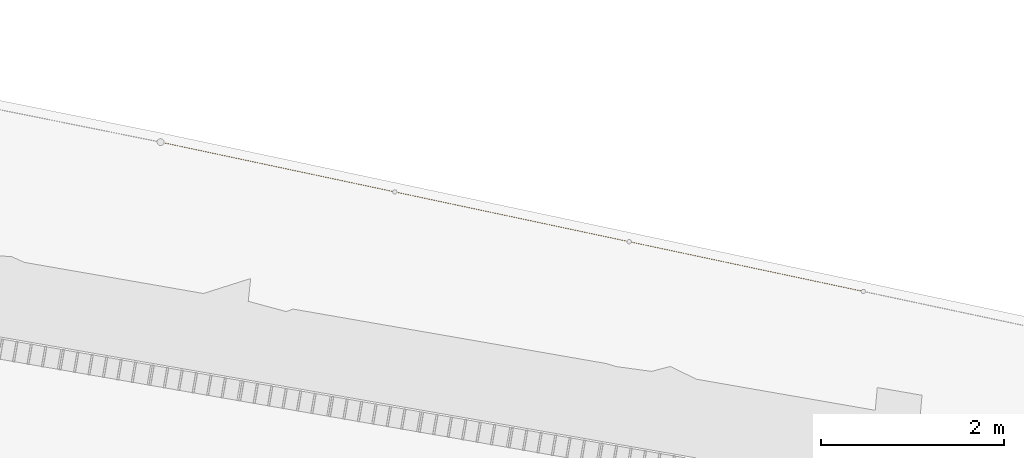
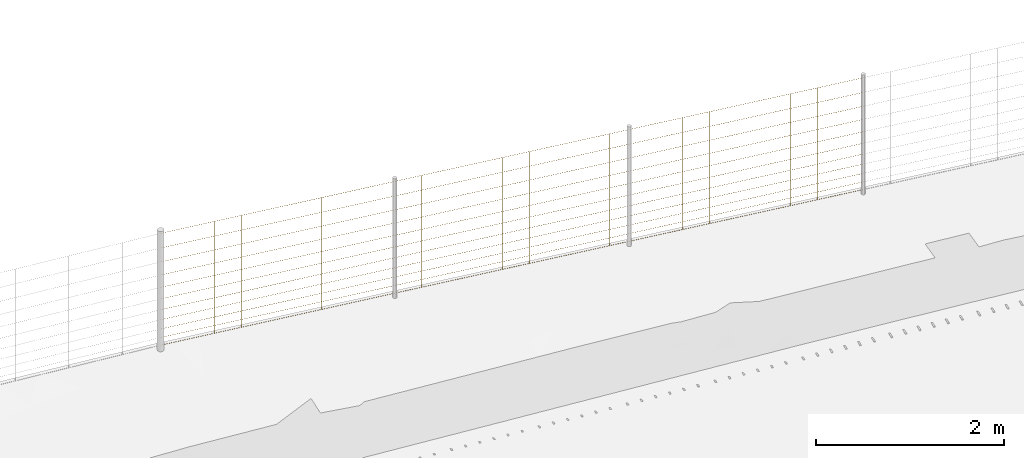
# Not in any storey, part 51 of 72: 3 railings.
"""IFC4 model written with IfcOpenShell, lengths in metres."""

import ifcopenshell
import ifcopenshell.guid

model = None  # the IFC model being written
_history = None  # IfcOwnerHistory: only IFC2X3 demands one
_inside = {}  # id of a spatial element -> (the spatial element, [elements in it])
_under = {}  # id of a project, library or spatial element -> (it, [spatial elements below it])
_declared = {}  # id of a project -> (the project, [libraries it declares])
_typed = {}  # id of a type object -> (the type object, [elements of that type])
_made_of = {}  # id of a material, layer set ... -> (it, [elements and type objects made of it])


def new_model(schema):
    """Start an empty IFC model of exactly this schema.

    Asked for "IFC4X3", IfcOpenShell would pick the latest addendum, in which some entities
    have other attributes; the version numbers below select the first issue.
    IFC2X3 requires an IfcOwnerHistory on every rooted entity: one is made here for all.
    """
    global model, _history
    if schema == "IFC4X3":
        model = ifcopenshell.file(schema_version=(4, 3, 0, 0))
    else:
        model = ifcopenshell.file(schema=schema)
    _inside.clear()
    _under.clear()
    _declared.clear()
    _typed.clear()
    _made_of.clear()
    _history = None
    if model.schema == "IFC2X3":
        org = make("IfcOrganization", Name="unknown")
        user = make(
            "IfcPersonAndOrganization",
            ThePerson=make("IfcPerson", FamilyName="unknown"),
            TheOrganization=org,
        )
        app = make(
            "IfcApplication",
            ApplicationDeveloper=org,
            Version="unknown",
            ApplicationFullName="unknown",
            ApplicationIdentifier="unknown",
        )
        _history = make(
            "IfcOwnerHistory",
            OwningUser=user,
            OwningApplication=app,
            ChangeAction="ADDED",
            CreationDate=0,
        )
    return model


def make(cls, **values):
    """One entity of the class cls with the attributes given. An attribute that is None is left unset."""
    return model.create_entity(
        cls, **{name: value for name, value in values.items() if value is not None}
    )


def rooted(cls, **values):
    """An entity with a GlobalId (a new one), such as an element, a storey or a relation."""
    return make(cls, GlobalId=ifcopenshell.guid.new(), OwnerHistory=_history, **values)


def si_unit(unit_type, name, prefix=None):
    """IfcSIUnit, for example si_unit("LENGTHUNIT", "METRE", prefix="MILLI")."""
    return make("IfcSIUnit", UnitType=unit_type, Prefix=prefix, Name=name)


def assignment(units):
    """IfcUnitAssignment: the units of a project."""
    return None if units is None else make("IfcUnitAssignment", Units=units)


def point(xyz):
    """IfcCartesianPoint."""
    return None if xyz is None else make("IfcCartesianPoint", Coordinates=xyz)


def direction(xyz):
    """IfcDirection."""
    return None if xyz is None else make("IfcDirection", DirectionRatios=xyz)


def frame(location, z_axis=None, x_axis=None):
    """IfcAxis2Placement3D, a coordinate frame: its origin and axes. An axis left out is left unset."""
    return make(
        "IfcAxis2Placement3D",
        Location=point(location),
        Axis=direction(z_axis),
        RefDirection=direction(x_axis),
    )


def origin_with_axes():
    """The frame at (0, 0, 0) with the z axis (0, 0, 1) and the x axis (1, 0, 0) written out."""
    return frame((0.0, 0.0, 0.0), z_axis=(0.0, 0.0, 1.0), x_axis=(1.0, 0.0, 0.0))


def place(relative_to, where):
    """IfcLocalPlacement: puts the frame where relative to a parent placement (None: the world)."""
    return make(
        "IfcLocalPlacement", PlacementRelTo=relative_to, RelativePlacement=where
    )


def context(
    kind, dimensions, precision=None, world=None, true_north=None, identifier=None
):
    """IfcGeometricRepresentationContext, for example the 3D "Model" context."""
    return make(
        "IfcGeometricRepresentationContext",
        ContextIdentifier=identifier,
        ContextType=kind,
        CoordinateSpaceDimension=dimensions,
        Precision=precision,
        WorldCoordinateSystem=world,
        TrueNorth=true_north,
    )


def subcontext(parent, identifier, kind, view, scale=None):
    """IfcGeometricRepresentationSubContext, for example "Body" below "Model"."""
    return make(
        "IfcGeometricRepresentationSubContext",
        ContextIdentifier=identifier,
        ContextType=kind,
        ParentContext=parent,
        TargetScale=scale,
        TargetView=view,
    )


def project(units=None, contexts=None):
    """IfcProject with its units and contexts."""
    return rooted(
        "IfcProject",
        Name="project",
        RepresentationContexts=contexts,
        UnitsInContext=assignment(units),
    )


def spatial(cls, under=None, at=None, **own):
    """A site, building, storey or space (cls), placed at a placement, below another one or the project."""
    s = rooted(cls, ObjectPlacement=at, **own)
    if under is not None:
        _under.setdefault(under.id(), (under, []))[1].append(s)
    return s


def point_list(points):
    """IfcCartesianPointList2D or 3D."""
    cls = (
        "IfcCartesianPointList2D" if len(points[0]) == 2 else "IfcCartesianPointList3D"
    )
    return make(cls, CoordList=points)


def polygons(points, faces, closed=None, point_numbers=None):
    """IfcPolygonalFaceSet: a face is its outer loop, then its inner loops; points numbered from 1."""
    made = []
    for loops in faces:
        if len(loops) == 1:
            made.append(make("IfcIndexedPolygonalFace", CoordIndex=loops[0]))
        else:
            made.append(
                make(
                    "IfcIndexedPolygonalFaceWithVoids",
                    CoordIndex=loops[0],
                    InnerCoordIndices=loops[1:],
                )
            )
    return make(
        "IfcPolygonalFaceSet",
        Coordinates=point_list(points),
        Closed=closed,
        Faces=made,
        PnIndex=point_numbers,
    )


def shape(context_of_items, identifier, shape_type, items):
    """IfcShapeRepresentation: the items that make up one representation, for example the "Body"."""
    return make(
        "IfcShapeRepresentation",
        ContextOfItems=context_of_items,
        RepresentationIdentifier=identifier,
        RepresentationType=shape_type,
        Items=items,
    )


def material(Name=None, Category=None):
    """IfcMaterial."""
    return make("IfcMaterial", Name=Name, Category=Category)


def made_of(thing, what):
    """Note that an element or type object is made of a material, layer set ...; save() writes the relation."""
    if what is not None:
        _made_of.setdefault(what.id(), (what, []))[1].append(thing)
    return thing


def element(
    cls,
    number,
    at=None,
    inside=None,
    cuts=None,
    type_object=None,
    material=None,
    context=None,
    identifier="Body",
    shape_type=None,
    held_by="IfcProductDefinitionShape",
    body=None,
    shapes=None,
    **own,
):
    """One element of the class cls, such as IfcWall. Its Tag is "e" and its number.

    at: its placement. inside: the storey or other place that contains it. cuts: it is an
    opening in that element (IfcRelVoidsElement). A single representation is given by context,
    identifier, shape_type and body (its items); several are given by shapes. held_by: the class
    of the entity that holds the representations. save() writes the other relations.
    """
    e = rooted(cls, Tag="e%d" % number, ObjectPlacement=at, **own)
    if body is not None:
        shapes = [shape(context, identifier, shape_type, body)]
    if shapes is not None:
        e.Representation = make(held_by, Representations=shapes)
    if inside is not None:
        _inside.setdefault(inside.id(), (inside, []))[1].append(e)
    if cuts is not None:
        rooted(
            "IfcRelVoidsElement", RelatingBuildingElement=cuts, RelatedOpeningElement=e
        )
    if type_object is not None:
        _typed.setdefault(type_object.id(), (type_object, []))[1].append(e)
    return made_of(e, material)


def aggregate(whole, parts):
    """IfcRelAggregates: a whole, such as a stair, and the parts it consists of."""
    return rooted("IfcRelAggregates", RelatingObject=whole, RelatedObjects=parts)


def save(model, path):
    """Write the relations noted so far, then the file.

    IfcRelAggregates (storeys below a building ...), IfcRelContainedInSpatialStructure (elements
    in a storey), IfcRelDefinesByType, IfcRelAssociatesMaterial and IfcRelDeclares: one each for
    every whole, place, type object, material and project.
    """
    for whole, parts in _under.values():
        aggregate(whole, parts)
    for where, things in _inside.values():
        rooted(
            "IfcRelContainedInSpatialStructure",
            RelatedElements=things,
            RelatingStructure=where,
        )
    for kind, things in _typed.values():
        rooted("IfcRelDefinesByType", RelatedObjects=things, RelatingType=kind)
    for what, things in _made_of.values():
        rooted("IfcRelAssociatesMaterial", RelatedObjects=things, RelatingMaterial=what)
    for by, libraries in _declared.values():
        rooted("IfcRelDeclares", RelatingContext=by, RelatedDefinitions=libraries)
    model.write(path)


model = new_model("IFC4")

# Units and contexts
model_context = context("Model", 3, precision=1e-05, world=origin_with_axes(), true_north=direction((0.0, 1.0)))
body_context = subcontext(model_context, "Body", "Model", "MODEL_VIEW")
ifc_project = project(units=[si_unit("AREAUNIT", "SQUARE_METRE"), si_unit("VOLUMEUNIT", "CUBIC_METRE"), si_unit("LENGTHUNIT", "METRE")], contexts=[model_context])

# Site
site_placement = place(None, origin_with_axes())
site = spatial("IfcSite", under=ifc_project, at=site_placement, Name="Lares · Rua das Mercês · artigo 4771")

# Railings
ifc_material = material(Name="Aço galvanizado / Stahl verzinkt", Category="steel")
railing_1_placement = place(site_placement, frame((0.0, 0.0, 0.0), z_axis=(0.0, 0.0, 1.0), x_axis=(1.0, -1.03767253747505e-17, 0.0)))
element("IfcRailing", 1, at=railing_1_placement, inside=site, material=ifc_material, Name="Vedação · rede ovelheira 1.078", ObjectType="SHEEP_WIRE_FENCE", PredefinedType="USERDEFINED", context=body_context, shape_type="Tessellation", body=[
    polygons([(73.5210118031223, 9.69020864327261, 16.2570512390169), (73.5213842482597, 9.69166299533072, 16.2555525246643), (73.5216352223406, 9.69314315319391, 16.2570512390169), (73.5212627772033, 9.6916888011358, 16.2585499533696), (76.0805076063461, 9.14645894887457, 16.3654563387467), (76.0808800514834, 9.14791330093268, 16.3639576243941), (76.0811310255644, 9.14939345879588, 16.3654563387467), (76.080758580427, 9.14793910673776, 16.3669550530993), (73.5210118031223, 9.69020864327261, 16.3570512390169), (73.5213842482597, 9.69166299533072, 16.3555525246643), (73.5216352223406, 9.69314315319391, 16.3570512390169), (73.5212627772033, 9.6916888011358, 16.3585499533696), (76.0805076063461, 9.14645894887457, 16.4654563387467), (76.0808800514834, 9.14791330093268, 16.4639576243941), (76.0811310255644, 9.14939345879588, 16.4654563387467), (76.080758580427, 9.14793910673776, 16.4669550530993), (73.5210118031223, 9.69020864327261, 16.4670512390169), (73.5213842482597, 9.69166299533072, 16.4655525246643), (73.5216352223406, 9.69314315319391, 16.4670512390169), (73.5212627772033, 9.6916888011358, 16.4685499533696), (76.0805076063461, 9.14645894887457, 16.5754563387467), (76.0808800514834, 9.14791330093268, 16.5739576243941), (76.0811310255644, 9.14939345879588, 16.5754563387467), (76.080758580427, 9.14793910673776, 16.5769550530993), (73.5210118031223, 9.69020864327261, 16.5870512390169), (73.5213842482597, 9.69166299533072, 16.5855525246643), (73.5216352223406, 9.69314315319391, 16.5870512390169), (73.5212627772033, 9.6916888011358, 16.5885499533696), (76.0805076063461, 9.14645894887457, 16.6954563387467), (76.0808800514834, 9.14791330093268, 16.6939576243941), (76.0811310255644, 9.14939345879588, 16.6954563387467), (76.080758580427, 9.14793910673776, 16.6969550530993), (73.5210118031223, 9.69020864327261, 16.7170512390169), (73.5213842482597, 9.69166299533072, 16.7155525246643), (73.5216352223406, 9.69314315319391, 16.7170512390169), (73.5212627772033, 9.6916888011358, 16.7185499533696), (76.0805076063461, 9.14645894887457, 16.8254563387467), (76.0808800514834, 9.14791330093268, 16.8239576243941), (76.0811310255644, 9.14939345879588, 16.8254563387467), (76.080758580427, 9.14793910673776, 16.8269550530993), (73.5210118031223, 9.69020864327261, 16.8570512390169), (73.5213842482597, 9.69166299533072, 16.8555525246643), (73.5216352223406, 9.69314315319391, 16.8570512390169), (73.5212627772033, 9.6916888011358, 16.8585499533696), (76.0805076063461, 9.14645894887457, 16.9654563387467), (76.0808800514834, 9.14791330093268, 16.9639576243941), (76.0811310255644, 9.14939345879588, 16.9654563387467), (76.080758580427, 9.14793910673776, 16.9669550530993), (73.5210118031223, 9.69020864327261, 17.0070512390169), (73.5213842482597, 9.69166299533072, 17.0055525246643), (73.5216352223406, 9.69314315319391, 17.0070512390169), (73.5212627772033, 9.6916888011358, 17.0085499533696), (76.0805076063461, 9.14645894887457, 17.1154563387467), (76.0808800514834, 9.14791330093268, 17.1139576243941), (76.0811310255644, 9.14939345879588, 17.1154563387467), (76.080758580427, 9.14793910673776, 17.1169550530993), (73.5210118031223, 9.69020864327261, 17.1670512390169), (73.5213842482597, 9.69166299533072, 17.1655525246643), (73.5216352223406, 9.69314315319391, 17.1670512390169), (73.5212627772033, 9.6916888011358, 17.1685499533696), (76.0805076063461, 9.14645894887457, 17.2754563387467), (76.0808800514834, 9.14791330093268, 17.2739576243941), (76.0811310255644, 9.14939345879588, 17.2754563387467), (76.080758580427, 9.14793910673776, 17.2769550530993), (73.5210118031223, 9.69020864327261, 17.3370512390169), (73.5213842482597, 9.69166299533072, 17.3355525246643), (73.5216352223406, 9.69314315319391, 17.3370512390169), (73.5212627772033, 9.6916888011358, 17.3385499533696), (76.0805076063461, 9.14645894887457, 17.4454563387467), (76.0808800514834, 9.14791330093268, 17.4439576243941), (76.0811310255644, 9.14939345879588, 17.4454563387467), (76.080758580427, 9.14793910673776, 17.4469550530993), (73.5210118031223, 9.69020864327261, 17.5170512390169), (73.5213842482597, 9.69166299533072, 17.5155525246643), (73.5216352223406, 9.69314315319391, 17.5170512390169), (73.5212627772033, 9.6916888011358, 17.5185499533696), (76.0805076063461, 9.14645894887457, 17.6254563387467), (76.0808800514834, 9.14791330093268, 17.6239576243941), (76.0811310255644, 9.14939345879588, 17.6254563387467), (76.080758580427, 9.14793910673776, 17.6269550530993), (73.5210118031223, 9.69020864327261, 17.7070512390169), (73.5213842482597, 9.69166299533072, 17.7055525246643), (73.5216352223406, 9.69314315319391, 17.7070512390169), (73.5212627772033, 9.6916888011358, 17.7085499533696), (76.0805076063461, 9.14645894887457, 17.8154563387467), (76.0808800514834, 9.14791330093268, 17.8139576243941), (76.0811310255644, 9.14939345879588, 17.8154563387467), (76.080758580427, 9.14793910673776, 17.8169550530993), (73.814774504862, 9.63083397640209, 16.2694800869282), (73.813274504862, 9.62933397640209, 16.2694800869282), (73.814774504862, 9.62783397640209, 16.2694800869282), (73.816274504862, 9.62933397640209, 16.2694800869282), (73.814774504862, 9.63083397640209, 17.7194800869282), (73.813274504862, 9.62933397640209, 17.7194800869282), (73.814774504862, 9.62783397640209, 17.7194800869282), (73.816274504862, 9.62933397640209, 17.7194800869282), (74.1082254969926, 9.56849205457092, 16.2819089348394), (74.1067254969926, 9.56699205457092, 16.2819089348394), (74.1082254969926, 9.56549205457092, 16.2819089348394), (74.1097254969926, 9.56699205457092, 16.2819089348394), (74.1082254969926, 9.56849205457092, 17.7319089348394), (74.1067254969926, 9.56699205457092, 17.7319089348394), (74.1082254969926, 9.56549205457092, 17.7319089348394), (74.1097254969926, 9.56699205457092, 17.7319089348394), (74.4016764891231, 9.50615013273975, 16.2943377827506), (74.4001764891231, 9.50465013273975, 16.2943377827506), (74.4016764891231, 9.50315013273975, 16.2943377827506), (74.4031764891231, 9.50465013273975, 16.2943377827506), (74.4016764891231, 9.50615013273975, 17.7443377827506), (74.4001764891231, 9.50465013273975, 17.7443377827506), (74.4016764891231, 9.50315013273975, 17.7443377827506), (74.4031764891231, 9.50465013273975, 17.7443377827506), (74.6951274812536, 9.44380821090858, 16.3067666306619), (74.6936274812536, 9.44230821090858, 16.3067666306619), (74.6951274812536, 9.44080821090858, 16.3067666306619), (74.6966274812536, 9.44230821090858, 16.3067666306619), (74.6951274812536, 9.44380821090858, 17.7567666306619), (74.6936274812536, 9.44230821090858, 17.7567666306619), (74.6951274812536, 9.44080821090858, 17.7567666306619), (74.6966274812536, 9.44230821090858, 17.7567666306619), (74.9885784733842, 9.38146628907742, 16.3191954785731), (74.9870784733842, 9.37996628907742, 16.3191954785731), (74.9885784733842, 9.37846628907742, 16.3191954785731), (74.9900784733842, 9.37996628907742, 16.3191954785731), (74.9885784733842, 9.38146628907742, 17.7691954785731), (74.9870784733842, 9.37996628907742, 17.7691954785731), (74.9885784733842, 9.37846628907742, 17.7691954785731), (74.9900784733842, 9.37996628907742, 17.7691954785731), (75.2820294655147, 9.31912436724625, 16.3316243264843), (75.2805294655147, 9.31762436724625, 16.3316243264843), (75.2820294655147, 9.31612436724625, 16.3316243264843), (75.2835294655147, 9.31762436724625, 16.3316243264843), (75.2820294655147, 9.31912436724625, 17.7816243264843), (75.2805294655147, 9.31762436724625, 17.7816243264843), (75.2820294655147, 9.31612436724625, 17.7816243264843), (75.2835294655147, 9.31762436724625, 17.7816243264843), (75.5754804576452, 9.25678244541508, 16.3440531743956), (75.5739804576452, 9.25528244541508, 16.3440531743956), (75.5754804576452, 9.25378244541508, 16.3440531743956), (75.5769804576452, 9.25528244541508, 16.3440531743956), (75.5754804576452, 9.25678244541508, 17.7940531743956), (75.5739804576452, 9.25528244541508, 17.7940531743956), (75.5754804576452, 9.25378244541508, 17.7940531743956), (75.5769804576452, 9.25528244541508, 17.7940531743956), (75.8689314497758, 9.19444052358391, 16.3564820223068), (75.8674314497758, 9.19294052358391, 16.3564820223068), (75.8689314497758, 9.19144052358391, 16.3564820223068), (75.8704314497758, 9.19294052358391, 16.3564820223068), (75.8689314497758, 9.19444052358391, 17.8064820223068), (75.8674314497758, 9.19294052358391, 17.8064820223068), (75.8689314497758, 9.19144052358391, 17.8064820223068), (75.8704314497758, 9.19294052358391, 17.8064820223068)], [[[4, 3, 2, 1]], [[5, 6, 7, 8]], [[1, 2, 6, 5]], [[2, 3, 7, 6]], [[3, 4, 8, 7]], [[4, 1, 5, 8]], [[12, 11, 10, 9]], [[13, 14, 15, 16]], [[9, 10, 14, 13]], [[10, 11, 15, 14]], [[11, 12, 16, 15]], [[12, 9, 13, 16]], [[20, 19, 18, 17]], [[21, 22, 23, 24]], [[17, 18, 22, 21]], [[18, 19, 23, 22]], [[19, 20, 24, 23]], [[20, 17, 21, 24]], [[28, 27, 26, 25]], [[29, 30, 31, 32]], [[25, 26, 30, 29]], [[26, 27, 31, 30]], [[27, 28, 32, 31]], [[28, 25, 29, 32]], [[36, 35, 34, 33]], [[37, 38, 39, 40]], [[33, 34, 38, 37]], [[34, 35, 39, 38]], [[35, 36, 40, 39]], [[36, 33, 37, 40]], [[44, 43, 42, 41]], [[45, 46, 47, 48]], [[41, 42, 46, 45]], [[42, 43, 47, 46]], [[43, 44, 48, 47]], [[44, 41, 45, 48]], [[52, 51, 50, 49]], [[53, 54, 55, 56]], [[49, 50, 54, 53]], [[50, 51, 55, 54]], [[51, 52, 56, 55]], [[52, 49, 53, 56]], [[60, 59, 58, 57]], [[61, 62, 63, 64]], [[57, 58, 62, 61]], [[58, 59, 63, 62]], [[59, 60, 64, 63]], [[60, 57, 61, 64]], [[68, 67, 66, 65]], [[69, 70, 71, 72]], [[65, 66, 70, 69]], [[66, 67, 71, 70]], [[67, 68, 72, 71]], [[68, 65, 69, 72]], [[76, 75, 74, 73]], [[77, 78, 79, 80]], [[73, 74, 78, 77]], [[74, 75, 79, 78]], [[75, 76, 80, 79]], [[76, 73, 77, 80]], [[84, 83, 82, 81]], [[85, 86, 87, 88]], [[81, 82, 86, 85]], [[82, 83, 87, 86]], [[83, 84, 88, 87]], [[84, 81, 85, 88]], [[92, 91, 90, 89]], [[93, 94, 95, 96]], [[89, 90, 94, 93]], [[90, 91, 95, 94]], [[91, 92, 96, 95]], [[92, 89, 93, 96]], [[100, 99, 98, 97]], [[101, 102, 103, 104]], [[97, 98, 102, 101]], [[98, 99, 103, 102]], [[99, 100, 104, 103]], [[100, 97, 101, 104]], [[108, 107, 106, 105]], [[109, 110, 111, 112]], [[105, 106, 110, 109]], [[106, 107, 111, 110]], [[107, 108, 112, 111]], [[108, 105, 109, 112]], [[116, 115, 114, 113]], [[117, 118, 119, 120]], [[113, 114, 118, 117]], [[114, 115, 119, 118]], [[115, 116, 120, 119]], [[116, 113, 117, 120]], [[124, 123, 122, 121]], [[125, 126, 127, 128]], [[121, 122, 126, 125]], [[122, 123, 127, 126]], [[123, 124, 128, 127]], [[124, 121, 125, 128]], [[132, 131, 130, 129]], [[133, 134, 135, 136]], [[129, 130, 134, 133]], [[130, 131, 135, 134]], [[131, 132, 136, 135]], [[132, 129, 133, 136]], [[140, 139, 138, 137]], [[141, 142, 143, 144]], [[137, 138, 142, 141]], [[138, 139, 143, 142]], [[139, 140, 144, 143]], [[140, 137, 141, 144]], [[148, 147, 146, 145]], [[149, 150, 151, 152]], [[145, 146, 150, 149]], [[146, 147, 151, 150]], [[147, 148, 152, 151]], [[148, 145, 149, 152]]]),
])
railing_2_placement = place(site_placement, frame((0.0, 0.0, 0.0), z_axis=(0.0, 0.0, 1.0), x_axis=(1.0, -1.03767253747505e-17, 0.0)))
element("IfcRailing", 2, at=railing_2_placement, inside=site, material=ifc_material, Name="Vedação · rede ovelheira 1.079", ObjectType="SHEEP_WIRE_FENCE", PredefinedType="USERDEFINED", context=body_context, shape_type="Tessellation", body=[
    polygons([(76.0805076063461, 9.14645894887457, 16.3654563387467), (76.0808784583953, 9.1479136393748, 16.3639575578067), (76.0811310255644, 9.14939345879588, 16.3654563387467), (76.0807601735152, 9.14793876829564, 16.3669551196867), (78.6400034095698, 8.60270925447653, 16.471013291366), (78.640374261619, 8.60416394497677, 16.469514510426), (78.6406268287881, 8.60564376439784, 16.471013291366), (78.6402559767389, 8.6041890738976, 16.472512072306), (76.0805076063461, 9.14645894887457, 16.4654563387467), (76.0808784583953, 9.1479136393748, 16.4639575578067), (76.0811310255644, 9.14939345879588, 16.4654563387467), (76.0807601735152, 9.14793876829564, 16.4669551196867), (78.6400034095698, 8.60270925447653, 16.571013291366), (78.640374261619, 8.60416394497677, 16.569514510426), (78.6406268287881, 8.60564376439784, 16.571013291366), (78.6402559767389, 8.6041890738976, 16.572512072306), (76.0805076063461, 9.14645894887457, 16.5754563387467), (76.0808784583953, 9.1479136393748, 16.5739575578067), (76.0811310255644, 9.14939345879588, 16.5754563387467), (76.0807601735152, 9.14793876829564, 16.5769551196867), (78.6400034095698, 8.60270925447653, 16.681013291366), (78.640374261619, 8.60416394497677, 16.679514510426), (78.6406268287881, 8.60564376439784, 16.681013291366), (78.6402559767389, 8.6041890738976, 16.682512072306), (76.0805076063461, 9.14645894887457, 16.6954563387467), (76.0808784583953, 9.1479136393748, 16.6939575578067), (76.0811310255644, 9.14939345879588, 16.6954563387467), (76.0807601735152, 9.14793876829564, 16.6969551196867), (78.6400034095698, 8.60270925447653, 16.801013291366), (78.640374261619, 8.60416394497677, 16.799514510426), (78.6406268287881, 8.60564376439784, 16.801013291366), (78.6402559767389, 8.6041890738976, 16.802512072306), (76.0805076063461, 9.14645894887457, 16.8254563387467), (76.0808784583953, 9.1479136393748, 16.8239575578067), (76.0811310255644, 9.14939345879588, 16.8254563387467), (76.0807601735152, 9.14793876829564, 16.8269551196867), (78.6400034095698, 8.60270925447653, 16.931013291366), (78.640374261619, 8.60416394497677, 16.929514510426), (78.6406268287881, 8.60564376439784, 16.931013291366), (78.6402559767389, 8.6041890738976, 16.932512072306), (76.0805076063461, 9.14645894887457, 16.9654563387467), (76.0808784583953, 9.1479136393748, 16.9639575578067), (76.0811310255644, 9.14939345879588, 16.9654563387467), (76.0807601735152, 9.14793876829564, 16.9669551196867), (78.6400034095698, 8.60270925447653, 17.071013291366), (78.640374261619, 8.60416394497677, 17.069514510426), (78.6406268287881, 8.60564376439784, 17.071013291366), (78.6402559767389, 8.6041890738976, 17.072512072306), (76.0805076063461, 9.14645894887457, 17.1154563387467), (76.0808784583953, 9.1479136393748, 17.1139575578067), (76.0811310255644, 9.14939345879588, 17.1154563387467), (76.0807601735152, 9.14793876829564, 17.1169551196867), (78.6400034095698, 8.60270925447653, 17.221013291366), (78.640374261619, 8.60416394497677, 17.219514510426), (78.6406268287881, 8.60564376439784, 17.221013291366), (78.6402559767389, 8.6041890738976, 17.222512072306), (76.0805076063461, 9.14645894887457, 17.2754563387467), (76.0808784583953, 9.1479136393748, 17.2739575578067), (76.0811310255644, 9.14939345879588, 17.2754563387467), (76.0807601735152, 9.14793876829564, 17.2769551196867), (78.6400034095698, 8.60270925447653, 17.381013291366), (78.640374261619, 8.60416394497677, 17.379514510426), (78.6406268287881, 8.60564376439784, 17.381013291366), (78.6402559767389, 8.6041890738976, 17.382512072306), (76.0805076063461, 9.14645894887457, 17.4454563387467), (76.0808784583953, 9.1479136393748, 17.4439575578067), (76.0811310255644, 9.14939345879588, 17.4454563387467), (76.0807601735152, 9.14793876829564, 17.4469551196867), (78.6400034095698, 8.60270925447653, 17.551013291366), (78.640374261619, 8.60416394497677, 17.549514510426), (78.6406268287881, 8.60564376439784, 17.551013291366), (78.6402559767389, 8.6041890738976, 17.552512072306), (76.0805076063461, 9.14645894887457, 17.6254563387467), (76.0808784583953, 9.1479136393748, 17.6239575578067), (76.0811310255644, 9.14939345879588, 17.6254563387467), (76.0807601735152, 9.14793876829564, 17.6269551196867), (78.6400034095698, 8.60270925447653, 17.731013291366), (78.640374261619, 8.60416394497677, 17.729514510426), (78.6406268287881, 8.60564376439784, 17.731013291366), (78.6402559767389, 8.6041890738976, 17.732512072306), (76.0805076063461, 9.14645894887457, 17.8154563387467), (76.0808784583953, 9.1479136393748, 17.8139575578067), (76.0811310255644, 9.14939345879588, 17.8154563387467), (76.0807601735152, 9.14793876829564, 17.8169551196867), (78.6400034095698, 8.60270925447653, 17.921013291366), (78.640374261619, 8.60416394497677, 17.919514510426), (78.6406268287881, 8.60564376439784, 17.921013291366), (78.6402559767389, 8.6041890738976, 17.922512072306), (76.3742703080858, 9.08708428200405, 16.3775586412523), (76.3727703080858, 9.08558428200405, 16.3775586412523), (76.3742703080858, 9.08408428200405, 16.3775586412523), (76.3757703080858, 9.08558428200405, 16.3775586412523), (76.3742703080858, 9.08708428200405, 17.8275586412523), (76.3727703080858, 9.08558428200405, 17.8275586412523), (76.3742703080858, 9.08408428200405, 17.8275586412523), (76.3757703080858, 9.08558428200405, 17.8275586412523), (76.6677213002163, 9.02474236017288, 16.3896609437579), (76.6662213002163, 9.02324236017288, 16.3896609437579), (76.6677213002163, 9.02174236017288, 16.3896609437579), (76.6692213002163, 9.02324236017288, 16.3896609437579), (76.6677213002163, 9.02474236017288, 17.8396609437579), (76.6662213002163, 9.02324236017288, 17.8396609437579), (76.6677213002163, 9.02174236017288, 17.8396609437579), (76.6692213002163, 9.02324236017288, 17.8396609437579), (76.9611722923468, 8.96240043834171, 16.4017632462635), (76.9596722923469, 8.96090043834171, 16.4017632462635), (76.9611722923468, 8.95940043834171, 16.4017632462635), (76.9626722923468, 8.96090043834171, 16.4017632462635), (76.9611722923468, 8.96240043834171, 17.8517632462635), (76.9596722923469, 8.96090043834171, 17.8517632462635), (76.9611722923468, 8.95940043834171, 17.8517632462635), (76.9626722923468, 8.96090043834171, 17.8517632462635), (77.2546232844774, 8.90005851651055, 16.4138655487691), (77.2531232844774, 8.89855851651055, 16.4138655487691), (77.2546232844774, 8.89705851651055, 16.4138655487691), (77.2561232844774, 8.89855851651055, 16.4138655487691), (77.2546232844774, 8.90005851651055, 17.8638655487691), (77.2531232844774, 8.89855851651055, 17.8638655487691), (77.2546232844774, 8.89705851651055, 17.8638655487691), (77.2561232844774, 8.89855851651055, 17.8638655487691), (77.5480742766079, 8.83771659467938, 16.4259678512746), (77.5465742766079, 8.83621659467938, 16.4259678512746), (77.5480742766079, 8.83471659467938, 16.4259678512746), (77.5495742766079, 8.83621659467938, 16.4259678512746), (77.5480742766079, 8.83771659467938, 17.8759678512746), (77.5465742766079, 8.83621659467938, 17.8759678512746), (77.5480742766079, 8.83471659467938, 17.8759678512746), (77.5495742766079, 8.83621659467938, 17.8759678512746), (77.8415252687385, 8.77537467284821, 16.4380701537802), (77.8400252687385, 8.77387467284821, 16.4380701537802), (77.8415252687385, 8.77237467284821, 16.4380701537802), (77.8430252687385, 8.77387467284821, 16.4380701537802), (77.8415252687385, 8.77537467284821, 17.8880701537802), (77.8400252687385, 8.77387467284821, 17.8880701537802), (77.8415252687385, 8.77237467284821, 17.8880701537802), (77.8430252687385, 8.77387467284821, 17.8880701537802), (78.134976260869, 8.71303275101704, 16.4501724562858), (78.133476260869, 8.71153275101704, 16.4501724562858), (78.134976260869, 8.71003275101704, 16.4501724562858), (78.136476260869, 8.71153275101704, 16.4501724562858), (78.134976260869, 8.71303275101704, 17.9001724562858), (78.133476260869, 8.71153275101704, 17.9001724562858), (78.134976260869, 8.71003275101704, 17.9001724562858), (78.136476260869, 8.71153275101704, 17.9001724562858), (78.4284272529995, 8.65069082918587, 16.4622747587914), (78.4269272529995, 8.64919082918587, 16.4622747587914), (78.4284272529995, 8.64769082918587, 16.4622747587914), (78.4299272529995, 8.64919082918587, 16.4622747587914), (78.4284272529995, 8.65069082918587, 17.9122747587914), (78.4269272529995, 8.64919082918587, 17.9122747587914), (78.4284272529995, 8.64769082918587, 17.9122747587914), (78.4299272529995, 8.64919082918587, 17.9122747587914)], [[[4, 3, 2, 1]], [[5, 6, 7, 8]], [[1, 2, 6, 5]], [[2, 3, 7, 6]], [[3, 4, 8, 7]], [[4, 1, 5, 8]], [[12, 11, 10, 9]], [[13, 14, 15, 16]], [[9, 10, 14, 13]], [[10, 11, 15, 14]], [[11, 12, 16, 15]], [[12, 9, 13, 16]], [[20, 19, 18, 17]], [[21, 22, 23, 24]], [[17, 18, 22, 21]], [[18, 19, 23, 22]], [[19, 20, 24, 23]], [[20, 17, 21, 24]], [[28, 27, 26, 25]], [[29, 30, 31, 32]], [[25, 26, 30, 29]], [[26, 27, 31, 30]], [[27, 28, 32, 31]], [[28, 25, 29, 32]], [[36, 35, 34, 33]], [[37, 38, 39, 40]], [[33, 34, 38, 37]], [[34, 35, 39, 38]], [[35, 36, 40, 39]], [[36, 33, 37, 40]], [[44, 43, 42, 41]], [[45, 46, 47, 48]], [[41, 42, 46, 45]], [[42, 43, 47, 46]], [[43, 44, 48, 47]], [[44, 41, 45, 48]], [[52, 51, 50, 49]], [[53, 54, 55, 56]], [[49, 50, 54, 53]], [[50, 51, 55, 54]], [[51, 52, 56, 55]], [[52, 49, 53, 56]], [[60, 59, 58, 57]], [[61, 62, 63, 64]], [[57, 58, 62, 61]], [[58, 59, 63, 62]], [[59, 60, 64, 63]], [[60, 57, 61, 64]], [[68, 67, 66, 65]], [[69, 70, 71, 72]], [[65, 66, 70, 69]], [[66, 67, 71, 70]], [[67, 68, 72, 71]], [[68, 65, 69, 72]], [[76, 75, 74, 73]], [[77, 78, 79, 80]], [[73, 74, 78, 77]], [[74, 75, 79, 78]], [[75, 76, 80, 79]], [[76, 73, 77, 80]], [[84, 83, 82, 81]], [[85, 86, 87, 88]], [[81, 82, 86, 85]], [[82, 83, 87, 86]], [[83, 84, 88, 87]], [[84, 81, 85, 88]], [[92, 91, 90, 89]], [[93, 94, 95, 96]], [[89, 90, 94, 93]], [[90, 91, 95, 94]], [[91, 92, 96, 95]], [[92, 89, 93, 96]], [[100, 99, 98, 97]], [[101, 102, 103, 104]], [[97, 98, 102, 101]], [[98, 99, 103, 102]], [[99, 100, 104, 103]], [[100, 97, 101, 104]], [[108, 107, 106, 105]], [[109, 110, 111, 112]], [[105, 106, 110, 109]], [[106, 107, 111, 110]], [[107, 108, 112, 111]], [[108, 105, 109, 112]], [[116, 115, 114, 113]], [[117, 118, 119, 120]], [[113, 114, 118, 117]], [[114, 115, 119, 118]], [[115, 116, 120, 119]], [[116, 113, 117, 120]], [[124, 123, 122, 121]], [[125, 126, 127, 128]], [[121, 122, 126, 125]], [[122, 123, 127, 126]], [[123, 124, 128, 127]], [[124, 121, 125, 128]], [[132, 131, 130, 129]], [[133, 134, 135, 136]], [[129, 130, 134, 133]], [[130, 131, 135, 134]], [[131, 132, 136, 135]], [[132, 129, 133, 136]], [[140, 139, 138, 137]], [[141, 142, 143, 144]], [[137, 138, 142, 141]], [[138, 139, 143, 142]], [[139, 140, 144, 143]], [[140, 137, 141, 144]], [[148, 147, 146, 145]], [[149, 150, 151, 152]], [[145, 146, 150, 149]], [[146, 147, 151, 150]], [[147, 148, 152, 151]], [[148, 145, 149, 152]]]),
])
railing_3_placement = place(site_placement, frame((0.0, 0.0, 0.0), z_axis=(0.0, 0.0, 1.0), x_axis=(1.0, -1.03767253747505e-17, 0.0)))
element("IfcRailing", 3, at=railing_3_placement, inside=site, material=ifc_material, Name="Vedação · rede ovelheira 1.080", ObjectType="SHEEP_WIRE_FENCE", PredefinedType="USERDEFINED", context=body_context, shape_type="Tessellation", body=[
    polygons([(78.6400034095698, 8.60270925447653, 16.471013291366), (78.640374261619, 8.60416394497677, 16.469514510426), (78.6406268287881, 8.60564376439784, 16.471013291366), (78.6402559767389, 8.6041890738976, 16.472512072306), (81.1994992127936, 8.05895956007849, 16.5765702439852), (81.1998700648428, 8.06041425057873, 16.5750714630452), (81.2001226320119, 8.0618940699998, 16.5765702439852), (81.1997517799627, 8.06043937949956, 16.5780690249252), (78.6400034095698, 8.60270925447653, 16.571013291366), (78.640374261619, 8.60416394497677, 16.569514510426), (78.6406268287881, 8.60564376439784, 16.571013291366), (78.6402559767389, 8.6041890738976, 16.572512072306), (81.1994992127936, 8.05895956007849, 16.6765702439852), (81.1998700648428, 8.06041425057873, 16.6750714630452), (81.2001226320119, 8.0618940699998, 16.6765702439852), (81.1997517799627, 8.06043937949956, 16.6780690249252), (78.6400034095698, 8.60270925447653, 16.681013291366), (78.640374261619, 8.60416394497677, 16.679514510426), (78.6406268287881, 8.60564376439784, 16.681013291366), (78.6402559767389, 8.6041890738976, 16.682512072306), (81.1994992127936, 8.05895956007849, 16.7865702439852), (81.1998700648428, 8.06041425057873, 16.7850714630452), (81.2001226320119, 8.0618940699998, 16.7865702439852), (81.1997517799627, 8.06043937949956, 16.7880690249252), (78.6400034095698, 8.60270925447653, 16.801013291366), (78.640374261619, 8.60416394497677, 16.799514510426), (78.6406268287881, 8.60564376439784, 16.801013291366), (78.6402559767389, 8.6041890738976, 16.802512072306), (81.1994992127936, 8.05895956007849, 16.9065702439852), (81.1998700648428, 8.06041425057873, 16.9050714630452), (81.2001226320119, 8.0618940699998, 16.9065702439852), (81.1997517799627, 8.06043937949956, 16.9080690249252), (78.6400034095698, 8.60270925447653, 16.931013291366), (78.640374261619, 8.60416394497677, 16.929514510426), (78.6406268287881, 8.60564376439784, 16.931013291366), (78.6402559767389, 8.6041890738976, 16.932512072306), (81.1994992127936, 8.05895956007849, 17.0365702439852), (81.1998700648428, 8.06041425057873, 17.0350714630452), (81.2001226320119, 8.0618940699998, 17.0365702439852), (81.1997517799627, 8.06043937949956, 17.0380690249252), (78.6400034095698, 8.60270925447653, 17.071013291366), (78.640374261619, 8.60416394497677, 17.069514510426), (78.6406268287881, 8.60564376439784, 17.071013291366), (78.6402559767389, 8.6041890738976, 17.072512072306), (81.1994992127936, 8.05895956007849, 17.1765702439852), (81.1998700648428, 8.06041425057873, 17.1750714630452), (81.2001226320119, 8.0618940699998, 17.1765702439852), (81.1997517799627, 8.06043937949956, 17.1780690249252), (78.6400034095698, 8.60270925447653, 17.221013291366), (78.640374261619, 8.60416394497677, 17.219514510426), (78.6406268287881, 8.60564376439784, 17.221013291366), (78.6402559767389, 8.6041890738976, 17.222512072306), (81.1994992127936, 8.05895956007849, 17.3265702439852), (81.1998700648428, 8.06041425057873, 17.3250714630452), (81.2001226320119, 8.0618940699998, 17.3265702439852), (81.1997517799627, 8.06043937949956, 17.3280690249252), (78.6400034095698, 8.60270925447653, 17.381013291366), (78.640374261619, 8.60416394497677, 17.379514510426), (78.6406268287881, 8.60564376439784, 17.381013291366), (78.6402559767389, 8.6041890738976, 17.382512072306), (81.1994992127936, 8.05895956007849, 17.4865702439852), (81.1998700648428, 8.06041425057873, 17.4850714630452), (81.2001226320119, 8.0618940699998, 17.4865702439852), (81.1997517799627, 8.06043937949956, 17.4880690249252), (78.6400034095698, 8.60270925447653, 17.551013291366), (78.640374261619, 8.60416394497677, 17.549514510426), (78.6406268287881, 8.60564376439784, 17.551013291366), (78.6402559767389, 8.6041890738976, 17.552512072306), (81.1994992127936, 8.05895956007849, 17.6565702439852), (81.1998700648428, 8.06041425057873, 17.6550714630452), (81.2001226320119, 8.0618940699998, 17.6565702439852), (81.1997517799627, 8.06043937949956, 17.6580690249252), (78.6400034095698, 8.60270925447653, 17.731013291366), (78.640374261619, 8.60416394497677, 17.729514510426), (78.6406268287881, 8.60564376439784, 17.731013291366), (78.6402559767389, 8.6041890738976, 17.732512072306), (81.1994992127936, 8.05895956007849, 17.8365702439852), (81.1998700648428, 8.06041425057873, 17.8350714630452), (81.2001226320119, 8.0618940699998, 17.8365702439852), (81.1997517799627, 8.06043937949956, 17.8380690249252), (78.6400034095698, 8.60270925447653, 17.921013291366), (78.640374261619, 8.60416394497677, 17.919514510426), (78.6406268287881, 8.60564376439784, 17.921013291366), (78.6402559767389, 8.6041890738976, 17.922512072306), (81.1994992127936, 8.05895956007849, 18.0265702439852), (81.1998700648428, 8.06041425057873, 18.0250714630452), (81.2001226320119, 8.0618940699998, 18.0265702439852), (81.1997517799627, 8.06043937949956, 18.0280690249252), (78.9337661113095, 8.54333458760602, 16.4831155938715), (78.9322661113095, 8.54183458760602, 16.4831155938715), (78.9337661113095, 8.54033458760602, 16.4831155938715), (78.9352661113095, 8.54183458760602, 16.4831155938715), (78.9337661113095, 8.54333458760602, 17.9331155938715), (78.9322661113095, 8.54183458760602, 17.9331155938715), (78.9337661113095, 8.54033458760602, 17.9331155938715), (78.9352661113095, 8.54183458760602, 17.9331155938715), (79.2272171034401, 8.48099266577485, 16.4952178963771), (79.2257171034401, 8.47949266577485, 16.4952178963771), (79.2272171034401, 8.47799266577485, 16.4952178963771), (79.22871710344, 8.47949266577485, 16.4952178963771), (79.2272171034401, 8.48099266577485, 17.9452178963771), (79.2257171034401, 8.47949266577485, 17.9452178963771), (79.2272171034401, 8.47799266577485, 17.9452178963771), (79.22871710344, 8.47949266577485, 17.9452178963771), (79.5206680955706, 8.41865074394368, 16.5073201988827), (79.5191680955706, 8.41715074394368, 16.5073201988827), (79.5206680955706, 8.41565074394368, 16.5073201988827), (79.5221680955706, 8.41715074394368, 16.5073201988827), (79.5206680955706, 8.41865074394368, 17.9573201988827), (79.5191680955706, 8.41715074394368, 17.9573201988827), (79.5206680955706, 8.41565074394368, 17.9573201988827), (79.5221680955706, 8.41715074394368, 17.9573201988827), (79.8141190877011, 8.35630882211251, 16.5194225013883), (79.8126190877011, 8.35480882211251, 16.5194225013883), (79.8141190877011, 8.35330882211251, 16.5194225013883), (79.8156190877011, 8.35480882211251, 16.5194225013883), (79.8141190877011, 8.35630882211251, 17.9694225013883), (79.8126190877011, 8.35480882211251, 17.9694225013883), (79.8141190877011, 8.35330882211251, 17.9694225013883), (79.8156190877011, 8.35480882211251, 17.9694225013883), (80.1075700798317, 8.29396690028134, 16.5315248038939), (80.1060700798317, 8.29246690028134, 16.5315248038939), (80.1075700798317, 8.29096690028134, 16.5315248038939), (80.1090700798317, 8.29246690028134, 16.5315248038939), (80.1075700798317, 8.29396690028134, 17.9815248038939), (80.1060700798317, 8.29246690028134, 17.9815248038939), (80.1075700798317, 8.29096690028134, 17.9815248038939), (80.1090700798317, 8.29246690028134, 17.9815248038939), (80.4010210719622, 8.23162497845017, 16.5436271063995), (80.3995210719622, 8.23012497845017, 16.5436271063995), (80.4010210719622, 8.22862497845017, 16.5436271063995), (80.4025210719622, 8.23012497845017, 16.5436271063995), (80.4010210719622, 8.23162497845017, 17.9936271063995), (80.3995210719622, 8.23012497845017, 17.9936271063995), (80.4010210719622, 8.22862497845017, 17.9936271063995), (80.4025210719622, 8.23012497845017, 17.9936271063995), (80.6944720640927, 8.169283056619, 16.5557294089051), (80.6929720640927, 8.167783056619, 16.5557294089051), (80.6944720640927, 8.166283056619, 16.5557294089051), (80.6959720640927, 8.167783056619, 16.5557294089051), (80.6944720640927, 8.169283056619, 18.0057294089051), (80.6929720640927, 8.167783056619, 18.0057294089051), (80.6944720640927, 8.166283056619, 18.0057294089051), (80.6959720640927, 8.167783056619, 18.0057294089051), (80.9879230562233, 8.10694113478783, 16.5678317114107), (80.9864230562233, 8.10544113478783, 16.5678317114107), (80.9879230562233, 8.10394113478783, 16.5678317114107), (80.9894230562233, 8.10544113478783, 16.5678317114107), (80.9879230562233, 8.10694113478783, 18.0178317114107), (80.9864230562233, 8.10544113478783, 18.0178317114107), (80.9879230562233, 8.10394113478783, 18.0178317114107), (80.9894230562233, 8.10544113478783, 18.0178317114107)], [[[4, 3, 2, 1]], [[5, 6, 7, 8]], [[1, 2, 6, 5]], [[2, 3, 7, 6]], [[3, 4, 8, 7]], [[4, 1, 5, 8]], [[12, 11, 10, 9]], [[13, 14, 15, 16]], [[9, 10, 14, 13]], [[10, 11, 15, 14]], [[11, 12, 16, 15]], [[12, 9, 13, 16]], [[20, 19, 18, 17]], [[21, 22, 23, 24]], [[17, 18, 22, 21]], [[18, 19, 23, 22]], [[19, 20, 24, 23]], [[20, 17, 21, 24]], [[28, 27, 26, 25]], [[29, 30, 31, 32]], [[25, 26, 30, 29]], [[26, 27, 31, 30]], [[27, 28, 32, 31]], [[28, 25, 29, 32]], [[36, 35, 34, 33]], [[37, 38, 39, 40]], [[33, 34, 38, 37]], [[34, 35, 39, 38]], [[35, 36, 40, 39]], [[36, 33, 37, 40]], [[44, 43, 42, 41]], [[45, 46, 47, 48]], [[41, 42, 46, 45]], [[42, 43, 47, 46]], [[43, 44, 48, 47]], [[44, 41, 45, 48]], [[52, 51, 50, 49]], [[53, 54, 55, 56]], [[49, 50, 54, 53]], [[50, 51, 55, 54]], [[51, 52, 56, 55]], [[52, 49, 53, 56]], [[60, 59, 58, 57]], [[61, 62, 63, 64]], [[57, 58, 62, 61]], [[58, 59, 63, 62]], [[59, 60, 64, 63]], [[60, 57, 61, 64]], [[68, 67, 66, 65]], [[69, 70, 71, 72]], [[65, 66, 70, 69]], [[66, 67, 71, 70]], [[67, 68, 72, 71]], [[68, 65, 69, 72]], [[76, 75, 74, 73]], [[77, 78, 79, 80]], [[73, 74, 78, 77]], [[74, 75, 79, 78]], [[75, 76, 80, 79]], [[76, 73, 77, 80]], [[84, 83, 82, 81]], [[85, 86, 87, 88]], [[81, 82, 86, 85]], [[82, 83, 87, 86]], [[83, 84, 88, 87]], [[84, 81, 85, 88]], [[92, 91, 90, 89]], [[93, 94, 95, 96]], [[89, 90, 94, 93]], [[90, 91, 95, 94]], [[91, 92, 96, 95]], [[92, 89, 93, 96]], [[100, 99, 98, 97]], [[101, 102, 103, 104]], [[97, 98, 102, 101]], [[98, 99, 103, 102]], [[99, 100, 104, 103]], [[100, 97, 101, 104]], [[108, 107, 106, 105]], [[109, 110, 111, 112]], [[105, 106, 110, 109]], [[106, 107, 111, 110]], [[107, 108, 112, 111]], [[108, 105, 109, 112]], [[116, 115, 114, 113]], [[117, 118, 119, 120]], [[113, 114, 118, 117]], [[114, 115, 119, 118]], [[115, 116, 120, 119]], [[116, 113, 117, 120]], [[124, 123, 122, 121]], [[125, 126, 127, 128]], [[121, 122, 126, 125]], [[122, 123, 127, 126]], [[123, 124, 128, 127]], [[124, 121, 125, 128]], [[132, 131, 130, 129]], [[133, 134, 135, 136]], [[129, 130, 134, 133]], [[130, 131, 135, 134]], [[131, 132, 136, 135]], [[132, 129, 133, 136]], [[140, 139, 138, 137]], [[141, 142, 143, 144]], [[137, 138, 142, 141]], [[138, 139, 143, 142]], [[139, 140, 144, 143]], [[140, 137, 141, 144]], [[148, 147, 146, 145]], [[149, 150, 151, 152]], [[145, 146, 150, 149]], [[146, 147, 151, 150]], [[147, 148, 152, 151]], [[148, 145, 149, 152]]]),
])

save(model, "model.ifc")
